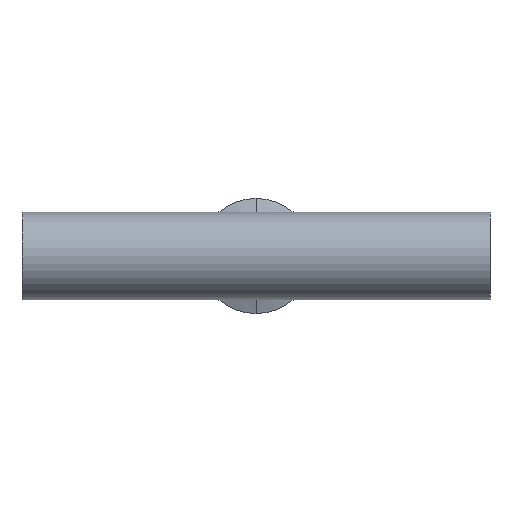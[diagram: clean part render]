
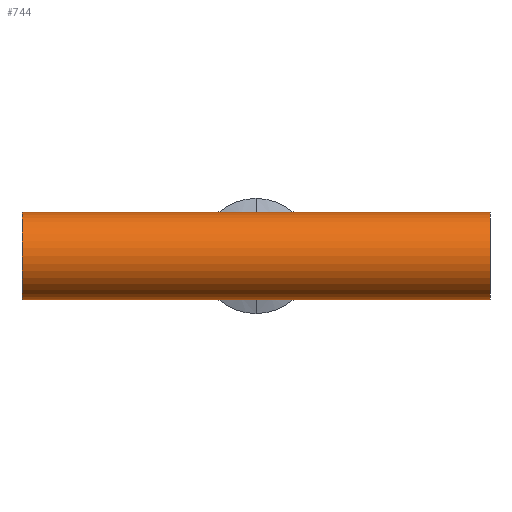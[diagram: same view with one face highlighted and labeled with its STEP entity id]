
A CAD part, front view. The second image highlights one B-rep face of the part: STEP entity #744.
In plain terms, the highlighted cylindrical face has radius 9.525 mm (diameter 19.05 mm), a partial arc.
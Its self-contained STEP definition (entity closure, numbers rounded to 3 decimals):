
#10 = VERTEX_POINT ( 'NONE', #543 ) ;
#21 = DIRECTION ( 'NONE',  ( 1., 0., 0. ) ) ;
#41 = VECTOR ( 'NONE', #742, 1000. ) ;
#194 = EDGE_CURVE ( 'NONE', #10, #274, #471, .T. ) ;
#228 = LINE ( 'NONE', #263, #517 ) ;
#236 = EDGE_LOOP ( 'NONE', ( #281, #852, #774, #253 ) ) ;
#253 = ORIENTED_EDGE ( 'NONE', *, *, #404, .T. ) ;
#263 = CARTESIAN_POINT ( 'NONE',  ( -50.8, 0., 9.525 ) ) ;
#274 = VERTEX_POINT ( 'NONE', #304 ) ;
#281 = ORIENTED_EDGE ( 'NONE', *, *, #529, .F. ) ;
#304 = CARTESIAN_POINT ( 'NONE',  ( 50.8, 0., -9.525 ) ) ;
#307 = DIRECTION ( 'NONE',  ( 0., 0., -1. ) ) ;
#404 = EDGE_CURVE ( 'NONE', #274, #594, #773, .T. ) ;
#471 = LINE ( 'NONE', #764, #41 ) ;
#481 = CARTESIAN_POINT ( 'NONE',  ( 50.8, 0., 9.525 ) ) ;
#517 = VECTOR ( 'NONE', #1177, 1000. ) ;
#529 = EDGE_CURVE ( 'NONE', #927, #594, #228, .T. ) ;
#543 = CARTESIAN_POINT ( 'NONE',  ( -50.8, 0., -9.525 ) ) ;
#567 = CARTESIAN_POINT ( 'NONE',  ( -50.8, 0., 0. ) ) ;
#582 = CARTESIAN_POINT ( 'NONE',  ( -50.8, 0., 9.525 ) ) ;
#594 = VERTEX_POINT ( 'NONE', #481 ) ;
#596 = DIRECTION ( 'NONE',  ( 1., 0., 0. ) ) ;
#607 = AXIS2_PLACEMENT_3D ( 'NONE', #637, #596, #608 ) ;
#608 = DIRECTION ( 'NONE',  ( 0., 0., -1. ) ) ;
#637 = CARTESIAN_POINT ( 'NONE',  ( -50.8, 0., 0. ) ) ;
#693 = CIRCLE ( 'NONE', #1089, 9.525 ) ;
#742 = DIRECTION ( 'NONE',  ( 1., 0., 0. ) ) ;
#744 = ADVANCED_FACE ( 'NONE', ( #925 ), #937, .T. ) ;
#764 = CARTESIAN_POINT ( 'NONE',  ( -50.8, 0., -9.525 ) ) ;
#773 = CIRCLE ( 'NONE', #1176, 9.525 ) ;
#774 = ORIENTED_EDGE ( 'NONE', *, *, #194, .T. ) ;
#852 = ORIENTED_EDGE ( 'NONE', *, *, #1043, .T. ) ;
#925 = FACE_OUTER_BOUND ( 'NONE', #236, .T. ) ;
#927 = VERTEX_POINT ( 'NONE', #582 ) ;
#937 = CYLINDRICAL_SURFACE ( 'NONE', #607, 9.525 ) ;
#1043 = EDGE_CURVE ( 'NONE', #927, #10, #693, .T. ) ;
#1089 = AXIS2_PLACEMENT_3D ( 'NONE', #567, #21, #307 ) ;
#1111 = CARTESIAN_POINT ( 'NONE',  ( 50.8, 0., 0. ) ) ;
#1116 = DIRECTION ( 'NONE',  ( -1., 0., 0. ) ) ;
#1123 = DIRECTION ( 'NONE',  ( 0., 0., -1. ) ) ;
#1176 = AXIS2_PLACEMENT_3D ( 'NONE', #1111, #1116, #1123 ) ;
#1177 = DIRECTION ( 'NONE',  ( 1., 0., 0. ) ) ;
